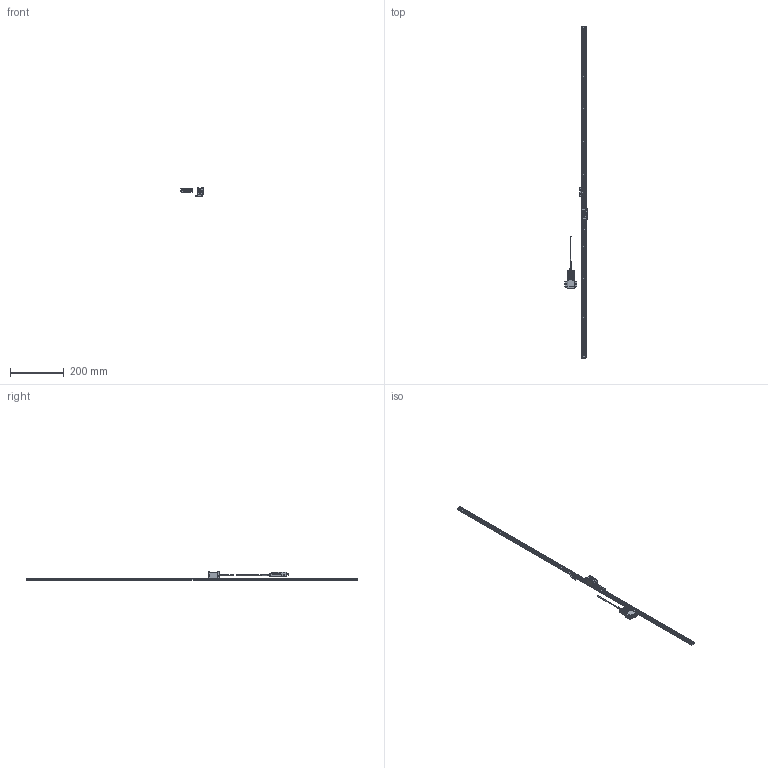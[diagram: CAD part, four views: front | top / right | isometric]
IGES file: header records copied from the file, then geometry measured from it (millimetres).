
Start section: Elysium IGES Interface
Global section: file name: 92HK:\20_商品設計\設計１課\個人\山室\05_作業中雑務\20220810_ST1300 3D HP掲載\ST1300-1200F_G.igs; native system: Creo Elements/Direct Modeling 18.1I  13-Aug-2016; preprocessor: Creo Element/Direct IGES_3D V2.2; author: Unknown; organization: Unknown; date: 20220816.103047; units: millimetre
Bounding box: 83 x 1240 x 30.1 mm (x, y, z)
Volume: 121688.6 mm3; surface area: 75026.1 mm2
Topology: 3 solids, 6 shells, 3542 faces, 9736 edges, 6346 vertices
Faces by surface type: bspline 3542
